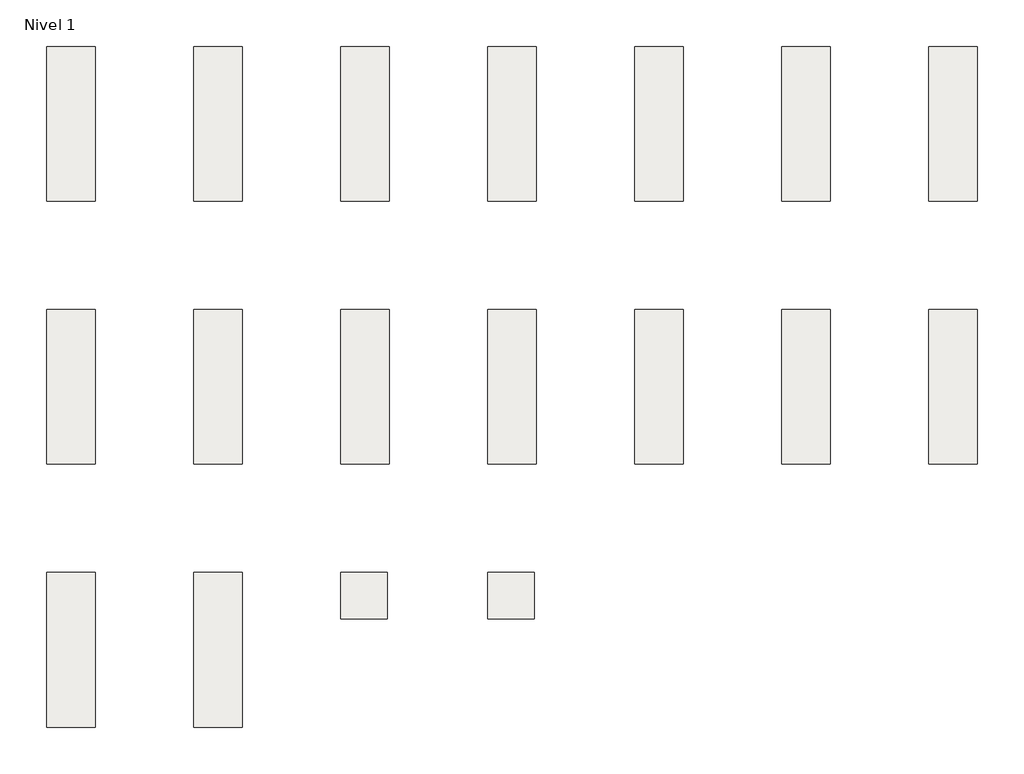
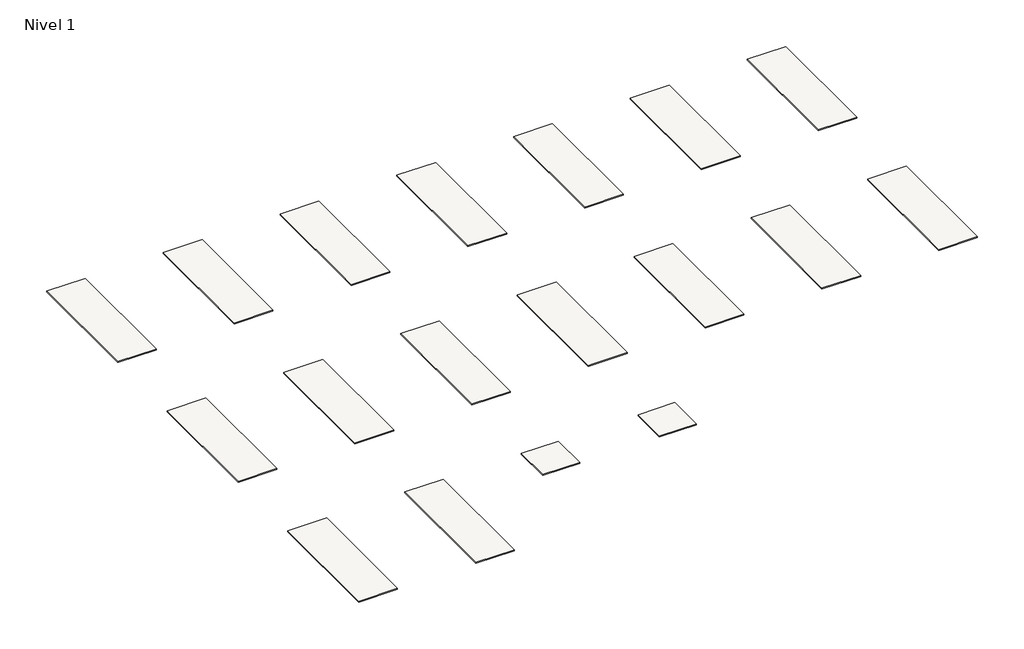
# One storey: 18 slabs.
"""IFC4 building model written with IfcOpenShell, lengths in millimetres."""

from ifc_helpers import new_model, si_unit, frame, origin, place, context, project, spatial, polyline, outline, extrude, element, save

model = new_model("IFC4")

# Units and contexts
model_context = context("Model", 3, world=origin())
ifc_project = project(units=[si_unit("LENGTHUNIT", "METRE", prefix="MILLI")], contexts=[model_context])

# Site, building, storey
site = spatial("IfcSite", under=ifc_project)
building = spatial("IfcBuilding", under=site)
storey = spatial("IfcBuildingStorey", under=building, Name="Nivel 1", Elevation=0.0)

# Slabs
placement = place(None, origin())
element("IfcSlab", 1, ObjectType="Marmorea 100 Estatuario", at=placement, inside=storey, context=model_context, shape_type="SweptSolid", body=[
    extrude(outline(polyline([(0.0, 1000.0), (315.0, 1000.0), (315.0, 0.0), (0.0, 0.0), (0.0, 1000.0)])), frame((0.0, 0.0, -8.7), z_axis=(0.0, 0.0, 1.0), x_axis=(1.0, 0.0, 0.0)), (0.0, 0.0, 1.0), 8.7),
])
element("IfcSlab", 2, ObjectType="Prenaos Estatua.315X1000 Rec.", at=placement, inside=storey, context=model_context, shape_type="SweptSolid", body=[
    extrude(outline(polyline([(950.0, 1000.0), (1265.0, 1000.0), (1265.0, 0.0), (950.0, 0.0), (950.0, 1000.0)])), frame((0.0, 0.0, -8.7), z_axis=(0.0, 0.0, 1.0), x_axis=(1.0, 0.0, 0.0)), (0.0, 0.0, 1.0), 8.7),
])
element("IfcSlab", 3, ObjectType="Capitel 100", at=placement, inside=storey, context=model_context, shape_type="SweptSolid", body=[
    extrude(outline(polyline([(0.0, -2400.0), (315.0, -2400.0), (315.0, -3400.0), (0.0, -3400.0), (0.0, -2400.0)])), frame((0.0, 0.0, -8.7), z_axis=(0.0, 0.0, 1.0), x_axis=(1.0, 0.0, 0.0)), (0.0, 0.0, 1.0), 8.7),
])
element("IfcSlab", 4, ObjectType="Marmorea 100 Paladio", at=placement, inside=storey, context=model_context, shape_type="SweptSolid", body=[
    extrude(outline(polyline([(1900.0, 1000.0), (2215.0, 1000.0), (2215.0, 0.0), (1900.0, 0.0), (1900.0, 1000.0)])), frame((0.0, 0.0, -8.7), z_axis=(0.0, 0.0, 1.0), x_axis=(1.0, 0.0, 0.0)), (0.0, 0.0, 1.0), 8.7),
])
element("IfcSlab", 5, ObjectType="Abaco Paladio 315X1000 Rec.", at=placement, inside=storey, context=model_context, shape_type="SweptSolid", body=[
    extrude(outline(polyline([(2850.0, 1000.0), (3165.0, 1000.0), (3165.0, 0.0), (2850.0, 0.0), (2850.0, 1000.0)])), frame((0.0, 0.0, -8.7), z_axis=(0.0, 0.0, 1.0), x_axis=(1.0, 0.0, 0.0)), (0.0, 0.0, 1.0), 8.7),
])
element("IfcSlab", 6, ObjectType="Marmorea 100 Calacata", at=placement, inside=storey, context=model_context, shape_type="SweptSolid", body=[
    extrude(outline(polyline([(3800.0, 1000.0), (4115.0, 1000.0), (4115.0, 0.0), (3800.0, 0.0), (3800.0, 1000.0)])), frame((0.0, 0.0, -8.7), z_axis=(0.0, 0.0, 1.0), x_axis=(1.0, 0.0, 0.0)), (0.0, 0.0, 1.0), 8.7),
])
element("IfcSlab", 7, ObjectType="Abaco Calacata 315X1000 Rec.", at=placement, inside=storey, context=model_context, shape_type="SweptSolid", body=[
    extrude(outline(polyline([(4750.0, 1000.0), (5065.0, 1000.0), (5065.0, 0.0), (4750.0, 0.0), (4750.0, 1000.0)])), frame((0.0, 0.0, -8.7), z_axis=(0.0, 0.0, 1.0), x_axis=(1.0, 0.0, 0.0)), (0.0, 0.0, 1.0), 8.7),
])
element("IfcSlab", 8, ObjectType="Celosia Calacata 315X1000 Rec.", at=placement, inside=storey, context=model_context, shape_type="SweptSolid", body=[
    extrude(outline(polyline([(5700.0, 1000.0), (6015.0, 1000.0), (6015.0, 0.0), (5700.0, 0.0), (5700.0, 1000.0)])), frame((0.0, 0.0, -8.7), z_axis=(0.0, 0.0, 1.0), x_axis=(1.0, 0.0, 0.0)), (0.0, 0.0, 1.0), 8.7),
])
element("IfcSlab", 9, ObjectType="Marmorea 100 Marquina", at=placement, inside=storey, context=model_context, shape_type="SweptSolid", body=[
    extrude(outline(polyline([(0.0, -700.0), (315.0, -700.0), (315.0, -1700.0), (0.0, -1700.0), (0.0, -700.0)])), frame((0.0, 0.0, -8.7), z_axis=(0.0, 0.0, 1.0), x_axis=(1.0, 0.0, 0.0)), (0.0, 0.0, 1.0), 8.7),
])
element("IfcSlab", 10, ObjectType="Prenaos Marquin.315X1000 Rec.", at=placement, inside=storey, context=model_context, shape_type="SweptSolid", body=[
    extrude(outline(polyline([(950.0, -700.0), (1265.0, -700.0), (1265.0, -1700.0), (950.0, -1700.0), (950.0, -700.0)])), frame((0.0, 0.0, -8.7), z_axis=(0.0, 0.0, 1.0), x_axis=(1.0, 0.0, 0.0)), (0.0, 0.0, 1.0), 8.7),
])
element("IfcSlab", 11, ObjectType="Dintel", at=placement, inside=storey, context=model_context, shape_type="SweptSolid", body=[
    extrude(outline(polyline([(950.0, -2400.0), (1265.0, -2400.0), (1265.0, -3400.0), (950.0, -3400.0), (950.0, -2400.0)])), frame((0.0, 0.0, -8.7), z_axis=(0.0, 0.0, 1.0), x_axis=(1.0, 0.0, 0.0)), (0.0, 0.0, 1.0), 8.7),
])
element("IfcSlab", 12, ObjectType="Naos Estatuario", at=placement, inside=storey, context=model_context, shape_type="SweptSolid", body=[
    extrude(outline(polyline([(1900.0, -700.0), (2215.0, -700.0), (2215.0, -1700.0), (1900.0, -1700.0), (1900.0, -700.0)])), frame((0.0, 0.0, -8.7), z_axis=(0.0, 0.0, 1.0), x_axis=(1.0, 0.0, 0.0)), (0.0, 0.0, 1.0), 8.7),
])
element("IfcSlab", 13, ObjectType="Danby Paladio", at=placement, inside=storey, context=model_context, shape_type="SweptSolid", body=[
    extrude(outline(polyline([(2850.0, -700.0), (3165.0, -700.0), (3165.0, -1700.0), (2850.0, -1700.0), (2850.0, -700.0)])), frame((0.0, 0.0, -8.7), z_axis=(0.0, 0.0, 1.0), x_axis=(1.0, 0.0, 0.0)), (0.0, 0.0, 1.0), 8.7),
])
element("IfcSlab", 14, ObjectType="Danby Calacata", at=placement, inside=storey, context=model_context, shape_type="SweptSolid", body=[
    extrude(outline(polyline([(3800.0, -700.0), (4115.0, -700.0), (4115.0, -1700.0), (3800.0, -1700.0), (3800.0, -700.0)])), frame((0.0, 0.0, -8.7), z_axis=(0.0, 0.0, 1.0), x_axis=(1.0, 0.0, 0.0)), (0.0, 0.0, 1.0), 8.7),
])
element("IfcSlab", 15, ObjectType="Fidias 315X1000 Rec.", at=placement, inside=storey, context=model_context, shape_type="SweptSolid", body=[
    extrude(outline(polyline([(4750.0, -700.0), (5065.0, -700.0), (5065.0, -1700.0), (4750.0, -1700.0), (4750.0, -700.0)])), frame((0.0, 0.0, -8.7), z_axis=(0.0, 0.0, 1.0), x_axis=(1.0, 0.0, 0.0)), (0.0, 0.0, 1.0), 8.7),
])
element("IfcSlab", 16, ObjectType="Friso Marquina", at=placement, inside=storey, context=model_context, shape_type="SweptSolid", body=[
    extrude(outline(polyline([(5700.0, -700.0), (6015.0, -700.0), (6015.0, -1700.0), (5700.0, -1700.0), (5700.0, -700.0)])), frame((0.0, 0.0, -8.7), z_axis=(0.0, 0.0, 1.0), x_axis=(1.0, 0.0, 0.0)), (0.0, 0.0, 1.0), 8.7),
])
element("IfcSlab", 17, ObjectType="Calacata Hexagonal", at=placement, inside=storey, context=model_context, shape_type="SweptSolid", body=[
    extrude(outline(polyline([(1900.0, -2400.0), (2200.0, -2400.0), (2200.0, -2700.0), (1900.0, -2700.0), (1900.0, -2400.0)])), frame((0.0, 0.0, -8.7), z_axis=(0.0, 0.0, 1.0), x_axis=(1.0, 0.0, 0.0)), (0.0, 0.0, 1.0), 8.7),
])
element("IfcSlab", 18, ObjectType="Paladio Hexagonal", at=placement, inside=storey, context=model_context, shape_type="SweptSolid", body=[
    extrude(outline(polyline([(2850.0, -2400.0), (3150.0, -2400.0), (3150.0, -2700.0), (2850.0, -2700.0), (2850.0, -2400.0)])), frame((0.0, 0.0, -8.7), z_axis=(0.0, 0.0, 1.0), x_axis=(1.0, 0.0, 0.0)), (0.0, 0.0, 1.0), 8.7),
])

save(model, "model.ifc")
